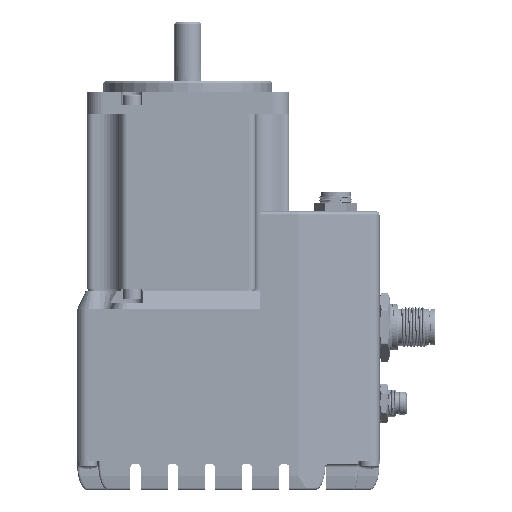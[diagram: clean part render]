
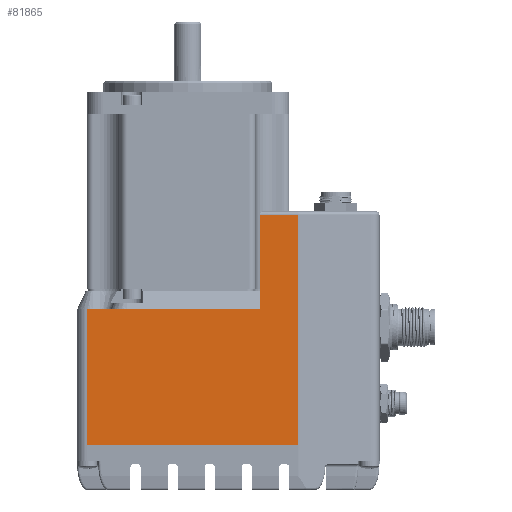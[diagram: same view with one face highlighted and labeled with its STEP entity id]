
A CAD part, front view. The second image highlights one B-rep face of the part: STEP entity #81865.
In plain terms, the highlighted planar face has unit normal (0, -1, 0) as drawn and (1, 0, 0) by its records, which use the part's own axes.
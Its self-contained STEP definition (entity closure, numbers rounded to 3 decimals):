
#10783=ORIENTED_EDGE('',*,*,#26644,.T.);
#10784=ORIENTED_EDGE('',*,*,#26645,.T.);
#10785=ORIENTED_EDGE('',*,*,#26380,.F.);
#10786=ORIENTED_EDGE('',*,*,#26576,.T.);
#10787=ORIENTED_EDGE('',*,*,#26646,.T.);
#10788=ORIENTED_EDGE('',*,*,#26647,.T.);
#10789=ORIENTED_EDGE('',*,*,#26498,.F.);
#26380=EDGE_CURVE('',#34749,#34750,#40940,.T.);
#26498=EDGE_CURVE('',#34854,#34855,#41007,.T.);
#26576=EDGE_CURVE('',#34749,#34925,#41049,.T.);
#26644=EDGE_CURVE('',#34854,#34962,#41094,.T.);
#26645=EDGE_CURVE('',#34962,#34750,#41095,.T.);
#26646=EDGE_CURVE('',#34925,#34963,#41096,.T.);
#26647=EDGE_CURVE('',#34963,#34855,#41097,.F.);
#34749=VERTEX_POINT('',#110659);
#34750=VERTEX_POINT('',#110661);
#34854=VERTEX_POINT('',#110894);
#34855=VERTEX_POINT('',#110896);
#34925=VERTEX_POINT('',#111049);
#34962=VERTEX_POINT('',#111195);
#34963=VERTEX_POINT('',#111198);
#40940=LINE('',#110660,#45934);
#41007=LINE('',#110895,#46001);
#41049=LINE('',#111050,#46043);
#41094=LINE('',#111194,#46088);
#41095=LINE('',#111196,#46089);
#41096=LINE('',#111197,#46090);
#41097=LINE('',#111199,#46091);
#45934=VECTOR('',#94539,1000.);
#46001=VECTOR('',#94732,1000.);
#46043=VECTOR('',#94858,1000.);
#46088=VECTOR('',#95013,1000.);
#46089=VECTOR('',#95014,1000.);
#46090=VECTOR('',#95015,1000.);
#46091=VECTOR('',#95016,1000.);
#50447=EDGE_LOOP('',(#10783,#10784,#10785,#10786,#10787,#10788,#10789));
#54636=FACE_BOUND('',#50447,.T.);
#58333=PLANE('',#86170);
#81865=ADVANCED_FACE('',(#54636),#58333,.F.);
#86170=AXIS2_PLACEMENT_3D('',#111193,#95011,#95012);
#94539=DIRECTION('',(0.,-1.,0.));
#94732=DIRECTION('',(0.,0.,-1.));
#94858=DIRECTION('',(0.,0.,-1.));
#95011=DIRECTION('',(-1.,0.,0.));
#95012=DIRECTION('',(0.,0.,1.));
#95013=DIRECTION('',(0.,-1.,0.));
#95014=DIRECTION('',(0.,0.,-1.));
#95015=DIRECTION('',(0.,0.,-1.));
#95016=DIRECTION('',(0.,-1.,0.));
#110659=CARTESIAN_POINT('',(32.8,0.,21.235));
#110660=CARTESIAN_POINT('',(32.8,102.395,21.235));
#110661=CARTESIAN_POINT('',(32.8,-28.,21.235));
#110894=CARTESIAN_POINT('',(32.8,40.3,32.515));
#110895=CARTESIAN_POINT('',(32.8,40.3,-32.8));
#110896=CARTESIAN_POINT('',(32.8,40.3,-29.8));
#111049=CARTESIAN_POINT('',(32.8,0.,-18.));
#111050=CARTESIAN_POINT('',(32.8,0.,28.));
#111193=CARTESIAN_POINT('',(32.8,40.3,-32.8));
#111194=CARTESIAN_POINT('',(32.8,40.3,32.515));
#111195=CARTESIAN_POINT('',(32.8,-28.,32.515));
#111196=CARTESIAN_POINT('',(32.8,-28.,21.235));
#111197=CARTESIAN_POINT('',(32.8,0.,-32.8));
#111198=CARTESIAN_POINT('',(32.8,0.,-29.8));
#111199=CARTESIAN_POINT('',(32.8,40.3,-29.8));
